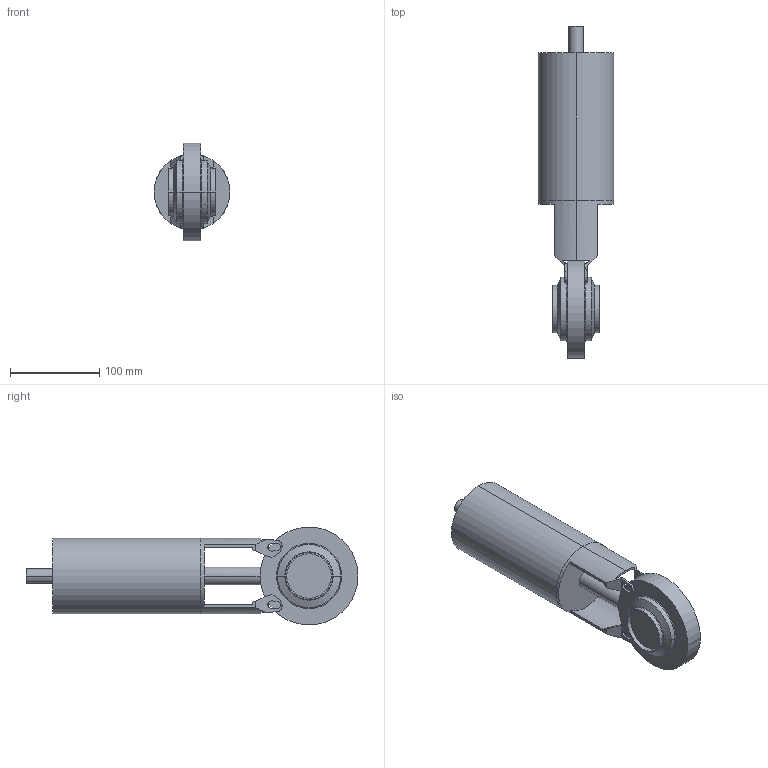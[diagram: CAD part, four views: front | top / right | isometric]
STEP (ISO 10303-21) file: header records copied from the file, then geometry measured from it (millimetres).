
FILE_DESCRIPTION(('Creo Elements/Direct Modeling STEP Export'),'2;1');
FILE_NAME('SV1-50-FZ-12S.stp','2016-04-29T15:40:28',(''),(''),'PTC Creo Elements/Direct Modeling STEP processor for AP214 (Solid Model)','PTC Creo Elements/Direct Modeling 19.0B 21-Mar-2015 (C) Parametric Technology GmbH','');
FILE_SCHEMA(('AUTOMOTIVE_DESIGN { 1 0 10303 214 1 1 1 1 }'));
Length unit declared in the file: millimetre
Products named in the file (4): SV1-50-Drat; SV1-50-FZ-12S; Luftanschluß
Assembly tree (3 placements, depth 2):
  SV1-50-FZ-12S
    Luftanschluß
    SV1-50-FZ-12S
    SV1-50-Drat
Bounding box: 85 x 372.88 x 109.67 mm (x, y, z)
Volume: 1282174.2 mm3; surface area: 122476.1 mm2
Topology: 3 solids, 3 shells, 124 faces, 337 edges, 212 vertices
Faces by surface type: plane 76, cylinder 36, torus 8, cone 4
Entity records: 4280 total; most frequent: CARTESIAN_POINT 1161, ORIENTED_EDGE 674, DIRECTION 607, EDGE_CURVE 337, VERTEX_POINT 212, AXIS2_PLACEMENT_3D 209, VECTOR 189, LINE 189
